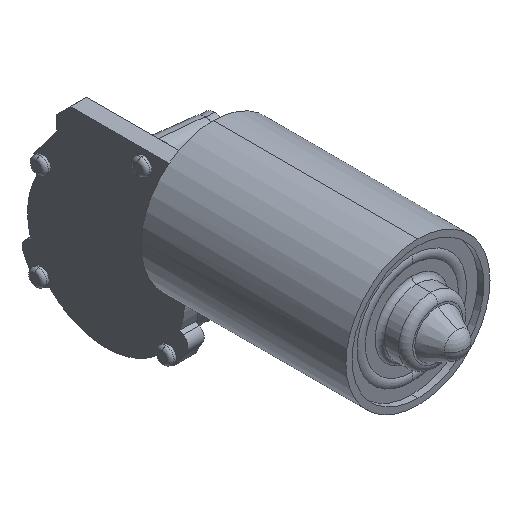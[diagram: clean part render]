
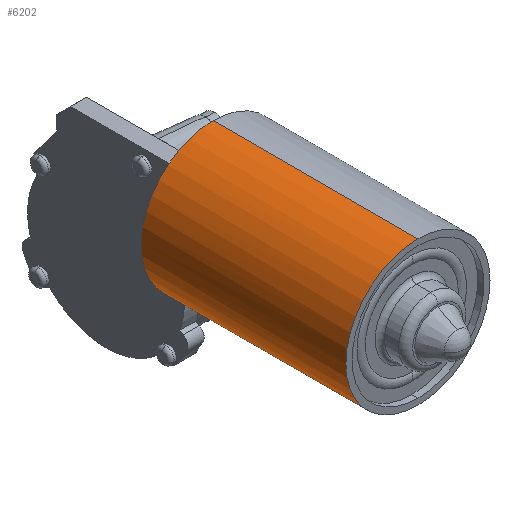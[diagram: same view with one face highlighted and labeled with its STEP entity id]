
A CAD part, isometric view. The second image highlights one B-rep face of the part: STEP entity #6202.
In plain terms, the highlighted cylindrical face has radius 30.6 mm (diameter 61.2 mm), a partial arc.
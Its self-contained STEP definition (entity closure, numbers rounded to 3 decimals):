
#223 = CARTESIAN_POINT ( 'NONE',  ( 0., 0., -129.4 ) ) ;
#258 = ORIENTED_EDGE ( 'NONE', *, *, #13667, .F. ) ;
#496 = CIRCLE ( 'NONE', #21441, 30.6 ) ;
#679 = CIRCLE ( 'NONE', #15349, 30.6 ) ;
#785 = AXIS2_PLACEMENT_3D ( 'NONE', #4289, #24095, #14129 ) ;
#1858 = EDGE_LOOP ( 'NONE', ( #12082, #6627, #8503, #8135, #258, #13312, #9644, #8557, #23601 ) ) ;
#2191 = DIRECTION ( 'NONE',  ( 0., -1., 0. ) ) ;
#3260 = CARTESIAN_POINT ( 'NONE',  ( -6.03, 126.755, -190. ) ) ;
#3321 = DIRECTION ( 'NONE',  ( 0., 1., 0. ) ) ;
#3387 = CARTESIAN_POINT ( 'NONE',  ( -5.887, 126.755, -190.029 ) ) ;
#3441 = VECTOR ( 'NONE', #8994, 1000. ) ;
#3794 = LINE ( 'NONE', #11933, #22100 ) ;
#3829 = VERTEX_POINT ( 'NONE', #14356 ) ;
#4036 = CIRCLE ( 'NONE', #22072, 30.6 ) ;
#4153 = LINE ( 'NONE', #223, #7089 ) ;
#4289 = CARTESIAN_POINT ( 'NONE',  ( 0., 127.055, -160. ) ) ;
#4319 = CARTESIAN_POINT ( 'NONE',  ( 0., 127.055, -160. ) ) ;
#4538 = VERTEX_POINT ( 'NONE', #24183 ) ;
#4938 = CARTESIAN_POINT ( 'NONE',  ( 0., 127.055, -190.6 ) ) ;
#5036 = B_SPLINE_CURVE_WITH_KNOTS ( 'NONE', 3,
 ( #23063, #21224, #3387, #3260 ),
 .UNSPECIFIED., .F., .F.,
 ( 4, 4 ),
 ( 0.109, 0.109 ),
 .UNSPECIFIED. ) ;
#5040 = CARTESIAN_POINT ( 'NONE',  ( -6.03, 126.755, -190. ) ) ;
#6154 = DIRECTION ( 'NONE',  ( 0., -1., 0. ) ) ;
#6202 = ADVANCED_FACE ( 'NONE', ( #14706 ), #14963, .T. ) ;
#6627 = ORIENTED_EDGE ( 'NONE', *, *, #15963, .T. ) ;
#7089 = VECTOR ( 'NONE', #2191, 1000. ) ;
#7209 = CARTESIAN_POINT ( 'NONE',  ( 0., 40.055, -129.4 ) ) ;
#7507 = EDGE_CURVE ( 'NONE', #8226, #4538, #679, .T. ) ;
#7796 = EDGE_CURVE ( 'NONE', #21639, #4538, #22769, .T. ) ;
#7819 = AXIS2_PLACEMENT_3D ( 'NONE', #8803, #22836, #18914 ) ;
#8135 = ORIENTED_EDGE ( 'NONE', *, *, #13752, .F. ) ;
#8226 = VERTEX_POINT ( 'NONE', #4938 ) ;
#8263 = DIRECTION ( 'NONE',  ( 0., 0., 1. ) ) ;
#8503 = ORIENTED_EDGE ( 'NONE', *, *, #21503, .T. ) ;
#8557 = ORIENTED_EDGE ( 'NONE', *, *, #13629, .F. ) ;
#8803 = CARTESIAN_POINT ( 'NONE',  ( 0., 0., -160. ) ) ;
#8994 = DIRECTION ( 'NONE',  ( 0., 1., 0. ) ) ;
#9644 = ORIENTED_EDGE ( 'NONE', *, *, #11701, .F. ) ;
#11701 = EDGE_CURVE ( 'NONE', #18673, #25223, #496, .T. ) ;
#11933 = CARTESIAN_POINT ( 'NONE',  ( 0., 0., -190.6 ) ) ;
#12061 = DIRECTION ( 'NONE',  ( 0., 1., 0. ) ) ;
#12082 = ORIENTED_EDGE ( 'NONE', *, *, #7507, .F. ) ;
#12196 = DIRECTION ( 'NONE',  ( 0., 1., 0. ) ) ;
#12451 = CARTESIAN_POINT ( 'NONE',  ( -5.6, 126.755, -190.083 ) ) ;
#12593 = CARTESIAN_POINT ( 'NONE',  ( 0., 40.055, -190.6 ) ) ;
#13312 = ORIENTED_EDGE ( 'NONE', *, *, #17613, .F. ) ;
#13550 = DIRECTION ( 'NONE',  ( 0., 0., -1. ) ) ;
#13629 = EDGE_CURVE ( 'NONE', #21639, #18673, #5036, .T. ) ;
#13667 = EDGE_CURVE ( 'NONE', #3829, #25212, #14208, .T. ) ;
#13752 = EDGE_CURVE ( 'NONE', #25212, #24985, #4153, .T. ) ;
#14129 = DIRECTION ( 'NONE',  ( 0., 0., 1. ) ) ;
#14208 = CIRCLE ( 'NONE', #785, 30.6 ) ;
#14356 = CARTESIAN_POINT ( 'NONE',  ( -12.5, 127.055, -187.93 ) ) ;
#14706 = FACE_OUTER_BOUND ( 'NONE', #1858, .T. ) ;
#14739 = DIRECTION ( 'NONE',  ( 0., 1., 0. ) ) ;
#14963 = CYLINDRICAL_SURFACE ( 'NONE', #7819, 30.6 ) ;
#15349 = AXIS2_PLACEMENT_3D ( 'NONE', #4319, #12196, #8263 ) ;
#15598 = CARTESIAN_POINT ( 'NONE',  ( -12.5, 126.755, -187.93 ) ) ;
#15858 = DIRECTION ( 'NONE',  ( 0., 0., 1. ) ) ;
#15963 = EDGE_CURVE ( 'NONE', #8226, #24935, #3794, .T. ) ;
#16708 = LINE ( 'NONE', #24703, #25483 ) ;
#17236 = CARTESIAN_POINT ( 'NONE',  ( 0., 126.755, -160. ) ) ;
#17613 = EDGE_CURVE ( 'NONE', #25223, #3829, #16708, .T. ) ;
#18673 = VERTEX_POINT ( 'NONE', #5040 ) ;
#18914 = DIRECTION ( 'NONE',  ( 0., 0., 1. ) ) ;
#18976 = CARTESIAN_POINT ( 'NONE',  ( -5.6, 0., -190.083 ) ) ;
#19547 = CARTESIAN_POINT ( 'NONE',  ( 0., 127.055, -129.4 ) ) ;
#19561 = CARTESIAN_POINT ( 'NONE',  ( 0., 40.055, -160. ) ) ;
#21224 = CARTESIAN_POINT ( 'NONE',  ( -5.744, 126.755, -190.056 ) ) ;
#21441 = AXIS2_PLACEMENT_3D ( 'NONE', #17236, #3321, #13550 ) ;
#21503 = EDGE_CURVE ( 'NONE', #24935, #24985, #4036, .T. ) ;
#21639 = VERTEX_POINT ( 'NONE', #12451 ) ;
#22072 = AXIS2_PLACEMENT_3D ( 'NONE', #19561, #12061, #15858 ) ;
#22100 = VECTOR ( 'NONE', #6154, 1000. ) ;
#22769 = LINE ( 'NONE', #18976, #3441 ) ;
#22836 = DIRECTION ( 'NONE',  ( 0., -1., 0. ) ) ;
#23063 = CARTESIAN_POINT ( 'NONE',  ( -5.6, 126.755, -190.083 ) ) ;
#23601 = ORIENTED_EDGE ( 'NONE', *, *, #7796, .T. ) ;
#24095 = DIRECTION ( 'NONE',  ( 0., 1., 0. ) ) ;
#24183 = CARTESIAN_POINT ( 'NONE',  ( -5.6, 127.055, -190.083 ) ) ;
#24703 = CARTESIAN_POINT ( 'NONE',  ( -12.5, 0., -187.93 ) ) ;
#24935 = VERTEX_POINT ( 'NONE', #12593 ) ;
#24985 = VERTEX_POINT ( 'NONE', #7209 ) ;
#25212 = VERTEX_POINT ( 'NONE', #19547 ) ;
#25223 = VERTEX_POINT ( 'NONE', #15598 ) ;
#25483 = VECTOR ( 'NONE', #14739, 1000. ) ;
